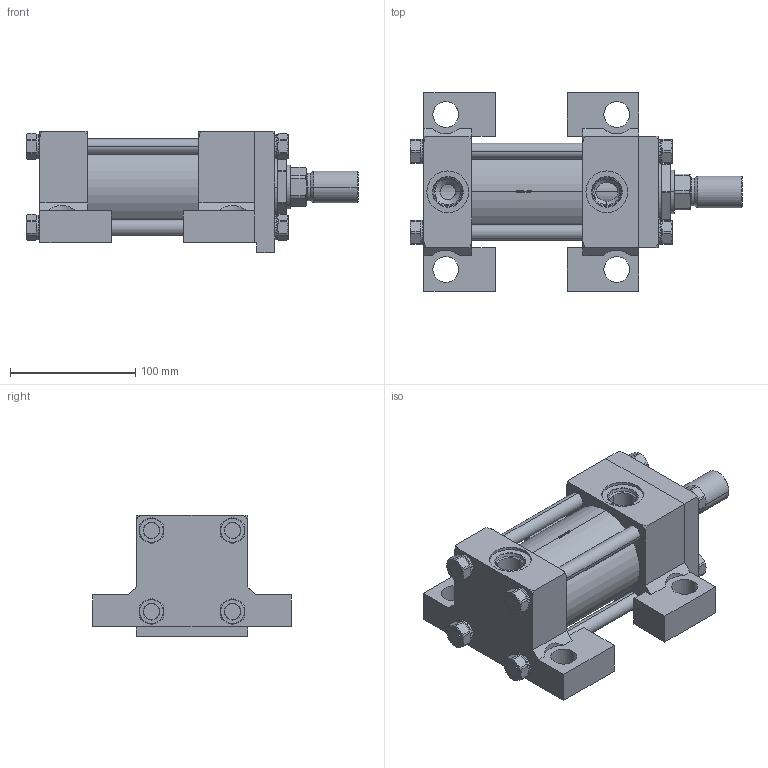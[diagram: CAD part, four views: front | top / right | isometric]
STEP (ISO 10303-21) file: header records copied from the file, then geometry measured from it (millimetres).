
FILE_DESCRIPTION (( 'STEP AP214' ), '1' );
FILE_NAME ('2.50CP2HHNAT134A2.000.step', '2026-03-26T21:16:21', ( '' ), ( '' ), 'SwSTEP 2.0', 'SolidWorks 2023', '' );
FILE_SCHEMA (( 'AUTOMOTIVE_DESIGN' ));
Length unit declared in the file: inch
Products named in the file (1): 2.50CP2HHNAT134A2.000
Bounding box: 265.11 x 158.75 x 96.84 mm (x, y, z)
Volume: 1306899 mm3; surface area: 287499.4 mm2
Topology: 46 solids, 46 shells, 1240 faces, 3198 edges, 2058 vertices
Faces by surface type: plane 808, cylinder 223, cone 163, bspline 38, torus 8
Entity records: 55935 total; most frequent: CARTESIAN_POINT 10976, ORIENTED_EDGE 6396, DIRECTION 5234, EDGE_CURVE 3198, VERTEX_POINT 2058, AXIS2_PLACEMENT_3D 1771, LINE 1692, VECTOR 1692
